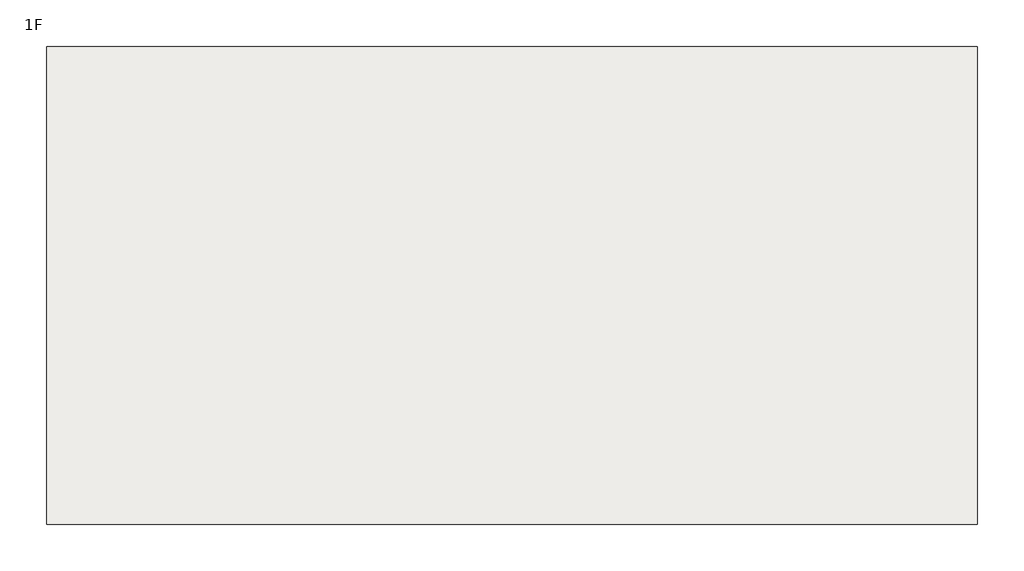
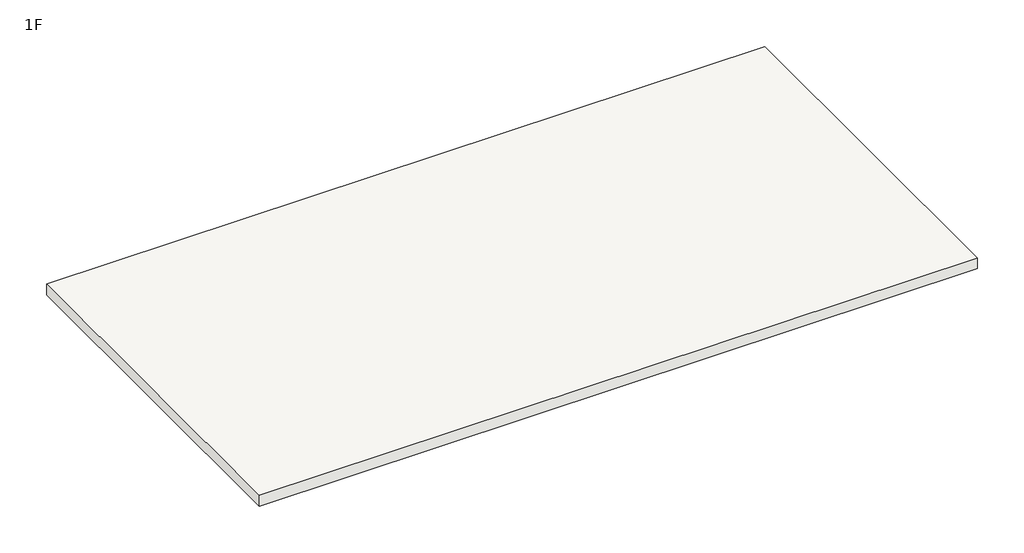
# One storey: 1 slab.
"""IFC4 building model written with IfcOpenShell, lengths in millimetres."""

from ifc_helpers import new_model, si_unit, frame, origin, place, context, project, spatial, polyline, outline, extrude, element, save

model = new_model("IFC4")

# Units and contexts
model_context = context("Model", 3, world=origin())
ifc_project = project(units=[si_unit("LENGTHUNIT", "METRE", prefix="MILLI")], contexts=[model_context])

# Site, building, storey
site = spatial("IfcSite", under=ifc_project)
building = spatial("IfcBuilding", under=site)
storey = spatial("IfcBuildingStorey", under=building, Name="1F", Elevation=0.0)

# Slab
placement = place(None, origin())
element("IfcSlab", 1, ObjectType="一般 150mm", at=placement, inside=storey, context=model_context, shape_type="SweptSolid", body=[
    extrude(outline(polyline([(-3962.2956033, 6498.0105384), (-3962.2956033, 1617.58244), (-13462.2956033, 1617.58244), (-13462.2956033, 6498.0105384), (-3962.2956033, 6498.0105384)])), frame((0.0, 0.0, -2100.0), z_axis=(0.0, 0.0, 1.0), x_axis=(1.0, 0.0, 0.0)), (0.0, 0.0, 1.0), 150.0),
])

save(model, "model.ifc")
